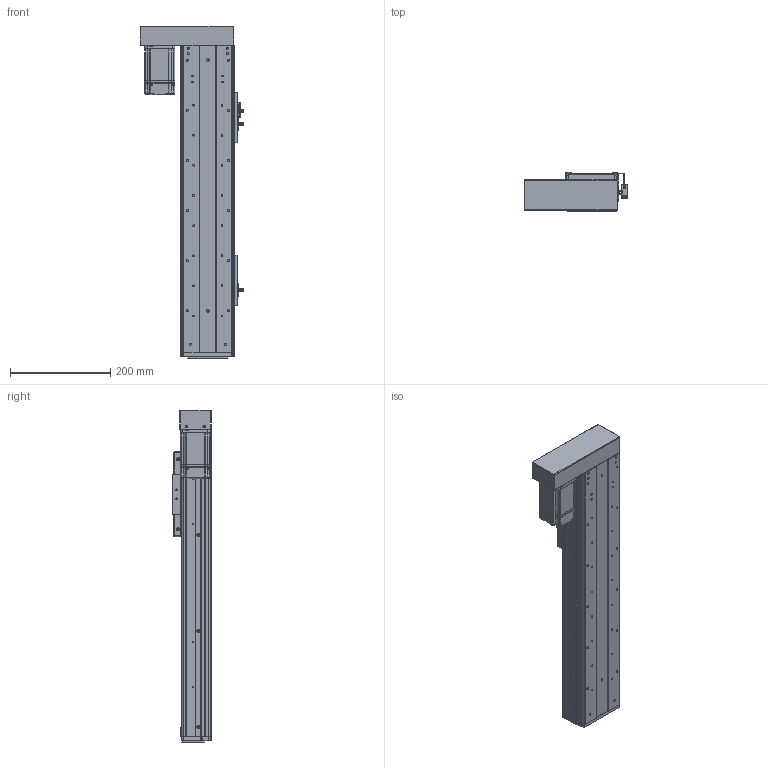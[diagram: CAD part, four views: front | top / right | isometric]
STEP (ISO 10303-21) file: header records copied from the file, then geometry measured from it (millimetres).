
FILE_DESCRIPTION (( 'STEP AP203' ), '1' );
FILE_NAME ('RY100FS-L1620-300-LK(15双轨).SLDASM_350.step', '2021-03-02T07:40:07', ( '盈信电脑' ), ( '东莞市道滘镇水果街19号' ), 'SwSTEP 2.0', 'SolidWorks 2012', '' );
FILE_SCHEMA (( 'CONFIG_CONTROL_DESIGN' ));
Products named in the file (21): RY100FS-L1620-300-LK(15邧寢).SLDASM_350; 蚥薯蝶紫輸; 滅袉蝶14-35; 1; RY100FS-15邧寢蛌殏萇儂欶; RY100FS-15邧寢蛌殏萇儂啣; RY100FS-双轨螺母座(16丝杆）; RY100FS-15邧寢蛌殏萇儂釱; 672嫖萇羲壽假蚾釱; 覜茼ん672; RY100F-詩湍揤踡輸; RY80俋离覜茼え; RY100F-詩湍幗謫粣; RY100F-詩湍揤踡謫; RY100F-綴裔啣; RY100FS-双轨铝滑块(上板）; RY100FS-300-LK15邧寢祥凄詩湍_350; RY100F-滅鳥裔啣; 棠沺沭; RY100FS-300-LK15絳寢倰第菁釱_350; RY100FS-300-LK15絳寢倰第奻裔啣_350
Assembly tree (29 placements, depth 2):
  RY100FS-L1620-300-LK(15邧寢).SLDASM_350
    RY100FS-300-LK15絳寢倰第菁釱_350
    RY100FS-300-LK15絳寢倰第奻裔啣_350  x2
    RY100FS-300-LK15邧寢祥凄詩湍_350
    RY100FS-双轨铝滑块(上板）
    RY100F-滅鳥裔啣
    棠沺沭  x2
    RY100F-詩湍幗謫粣
    RY100F-詩湍揤踡謫  x2
    RY100F-綴裔啣
    672嫖萇羲壽假蚾釱  x2
    RY80俋离覜茼え  x2
    覜茼ん672  x3
    RY100F-詩湍揤踡輸  x2
    RY100FS-双轨螺母座(16丝杆）
    RY100FS-15邧寢蛌殏萇儂釱
    滅袉蝶14-35
    1
    RY100FS-15邧寢蛌殏萇儂啣
    RY100FS-15邧寢蛌殏萇儂欶
    蚥薯蝶紫輸  x2
Bounding box: 207.3 x 78.5 x 662 mm (x, y, z)
Volume: 1909129.9 mm3; surface area: 789353.7 mm2
Topology: 29 solids, 29 shells, 2177 faces, 5866 edges, 3781 vertices
Faces by surface type: plane 1017, cylinder 959, cone 168, bspline 33
Entity records: 61315 total; most frequent: CARTESIAN_POINT 12484, DIRECTION 9773, ORIENTED_EDGE 9536, EDGE_CURVE 4768, AXIS2_PLACEMENT_3D 3450, VERTEX_POINT 3129, VECTOR 2873, LINE 2873
